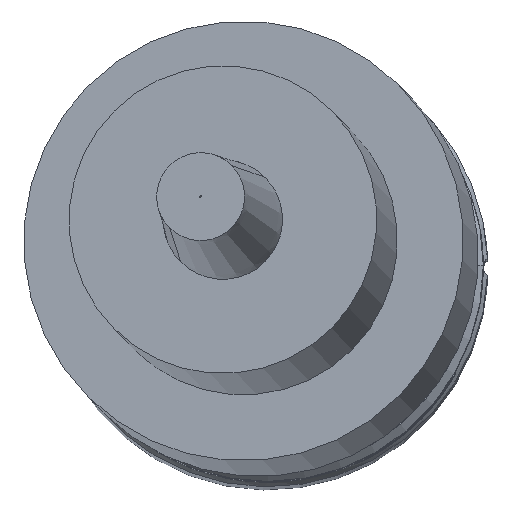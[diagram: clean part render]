
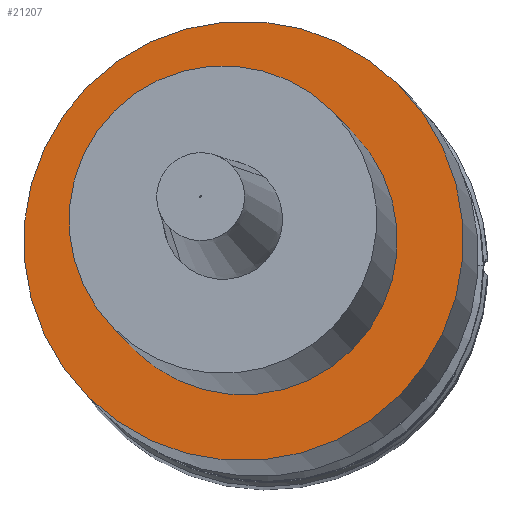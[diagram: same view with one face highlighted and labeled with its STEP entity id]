
A CAD part, top view. The second image highlights one B-rep face of the part: STEP entity #21207.
In plain terms, the highlighted planar face has unit normal (-0.049, 0.049, 0.998).
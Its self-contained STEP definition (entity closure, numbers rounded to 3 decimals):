
#539 = CARTESIAN_POINT ( 'NONE',  ( -0.548, 0.548, 21.629 ) ) ;
#962 = DIRECTION ( 'NONE',  ( -0.707, -0.707, 0. ) ) ;
#1710 = VERTEX_POINT ( 'NONE', #5147 ) ;
#3260 = CIRCLE ( 'NONE', #19295, 5. ) ;
#3528 = VERTEX_POINT ( 'NONE', #7835 ) ;
#4172 = DIRECTION ( 'NONE',  ( 0.049, -0.049, -0.998 ) ) ;
#4492 = EDGE_CURVE ( 'NONE', #3528, #16770, #14452, .T. ) ;
#4653 = CARTESIAN_POINT ( 'NONE',  ( -0.548, 0.548, 21.629 ) ) ;
#4755 = ORIENTED_EDGE ( 'NONE', *, *, #12726, .F. ) ;
#5147 = CARTESIAN_POINT ( 'NONE',  ( 2.988, 4.083, 21.629 ) ) ;
#5743 = AXIS2_PLACEMENT_3D ( 'NONE', #21071, #9898, #22949 ) ;
#5796 = CARTESIAN_POINT ( 'NONE',  ( -0.548, 0.548, 21.629 ) ) ;
#6537 = DIRECTION ( 'NONE',  ( 0.049, -0.049, -0.998 ) ) ;
#6695 = ORIENTED_EDGE ( 'NONE', *, *, #4492, .T. ) ;
#7835 = CARTESIAN_POINT ( 'NONE',  ( -3.023, -1.927, 21.629 ) ) ;
#9311 = DIRECTION ( 'NONE',  ( 0.049, -0.049, -0.998 ) ) ;
#9596 = EDGE_LOOP ( 'NONE', ( #6695, #21923 ) ) ;
#9898 = DIRECTION ( 'NONE',  ( 0.049, -0.049, -0.998 ) ) ;
#10766 = AXIS2_PLACEMENT_3D ( 'NONE', #539, #13602, #15457 ) ;
#10819 = CIRCLE ( 'NONE', #5743, 5. ) ;
#11367 = ORIENTED_EDGE ( 'NONE', *, *, #14460, .F. ) ;
#12272 = EDGE_CURVE ( 'NONE', #16770, #3528, #17523, .T. ) ;
#12726 = EDGE_CURVE ( 'NONE', #22305, #1710, #3260, .T. ) ;
#12819 = CARTESIAN_POINT ( 'NONE',  ( -4.083, -2.988, 21.629 ) ) ;
#13602 = DIRECTION ( 'NONE',  ( 0.049, -0.049, -0.998 ) ) ;
#14452 = CIRCLE ( 'NONE', #10766, 3.5 ) ;
#14460 = EDGE_CURVE ( 'NONE', #1710, #22305, #10819, .T. ) ;
#14921 = DIRECTION ( 'NONE',  ( -0.707, -0.707, 0. ) ) ;
#15084 = CARTESIAN_POINT ( 'NONE',  ( -3.017, 3.017, 21.385 ) ) ;
#15457 = DIRECTION ( 'NONE',  ( -0.707, -0.707, 0. ) ) ;
#16638 = AXIS2_PLACEMENT_3D ( 'NONE', #5796, #9311, #14921 ) ;
#16770 = VERTEX_POINT ( 'NONE', #23096 ) ;
#16877 = FACE_OUTER_BOUND ( 'NONE', #21277, .T. ) ;
#17523 = CIRCLE ( 'NONE', #16638, 3.5 ) ;
#18050 = FACE_BOUND ( 'NONE', #9596, .T. ) ;
#18919 = DIRECTION ( 'NONE',  ( -0.707, -0.707, 0. ) ) ;
#19295 = AXIS2_PLACEMENT_3D ( 'NONE', #4653, #6537, #962 ) ;
#21071 = CARTESIAN_POINT ( 'NONE',  ( -0.548, 0.548, 21.629 ) ) ;
#21207 = ADVANCED_FACE ( 'NONE', ( #16877, #18050 ), #22682, .F. ) ;
#21277 = EDGE_LOOP ( 'NONE', ( #4755, #11367 ) ) ;
#21923 = ORIENTED_EDGE ( 'NONE', *, *, #12272, .T. ) ;
#22305 = VERTEX_POINT ( 'NONE', #12819 ) ;
#22682 = PLANE ( 'NONE',  #23606 ) ;
#22949 = DIRECTION ( 'NONE',  ( -0.707, -0.707, 0. ) ) ;
#23096 = CARTESIAN_POINT ( 'NONE',  ( 1.927, 3.023, 21.629 ) ) ;
#23606 = AXIS2_PLACEMENT_3D ( 'NONE', #15084, #4172, #18919 ) ;
